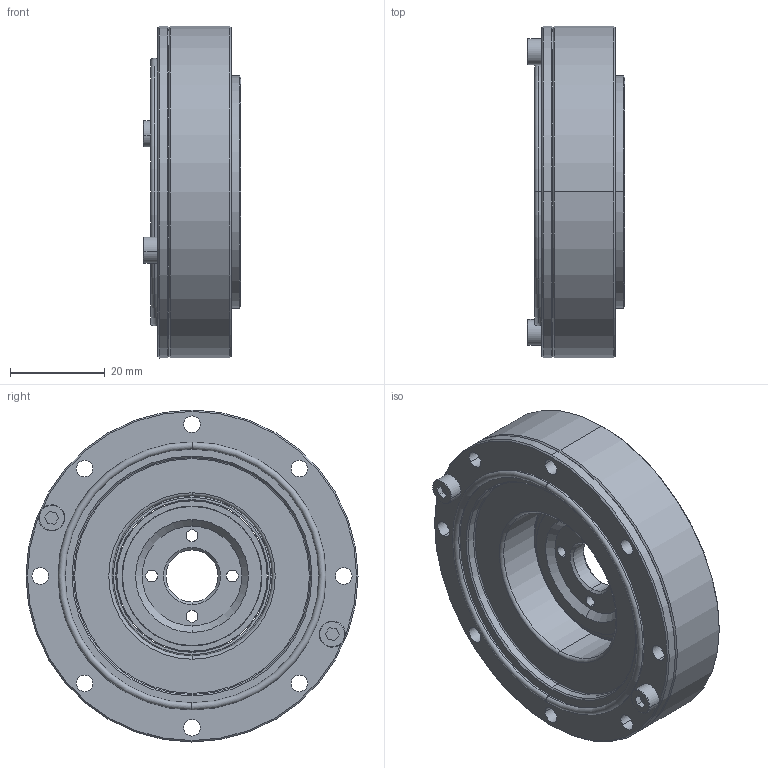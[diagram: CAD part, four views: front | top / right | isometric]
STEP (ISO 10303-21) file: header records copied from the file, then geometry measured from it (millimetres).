
FILE_DESCRIPTION (( 'STEP AP203' ), '1' );
FILE_NAME ('FHD-14-XXX-SH.STEP', '2025-09-02T02:50:54', ( '' ), ( '' ), 'SwSTEP 2.0', 'SolidWorks 2016', '' );
FILE_SCHEMA (( 'CONFIG_CONTROL_DESIGN' ));
Length unit declared in the file: millimetre
Products named in the file (1): FHD-14-XXX-SH
Bounding box: 20.5 x 70 x 70 mm (x, y, z)
Volume: 42560.2 mm3; surface area: 38164.7 mm2
Topology: 36 solids, 36 shells, 482 faces, 1199 edges, 747 vertices
Faces by surface type: cylinder 200, plane 100, cone 94, sphere 46, torus 42
Entity records: 13633 total; most frequent: DIRECTION 2704, CARTESIAN_POINT 2217, ORIENTED_EDGE 2112, AXIS2_PLACEMENT_3D 1165, EDGE_CURVE 1056, CIRCLE 682, VERTEX_POINT 678, EDGE_LOOP 578
